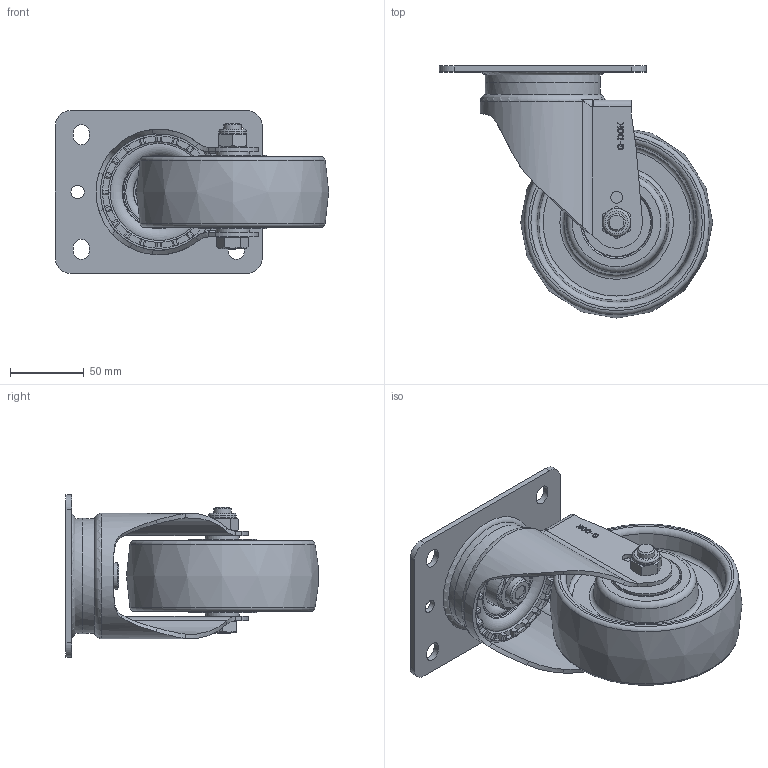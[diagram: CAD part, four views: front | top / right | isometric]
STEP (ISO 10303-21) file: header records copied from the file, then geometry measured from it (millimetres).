
FILE_DESCRIPTION(/* description */ (''),/* implementation_level */ '2;1');
FILE_NAME(/* name */ '\\192.168.10.38\지덕공유\1.기술연구소\2.연구개발 진행중\124.SPH-Series_중하중_2025.02.11\1.도면\2. 3D\홈페이지용\SPH-130-ASF-NYD-PEU.stp',/* time_stamp */ '2026-05-19T07:41:13+09:00',/* author */ ('admin'),/* organization */ ('지덕산업'),/* preprocessor_version */ 'ST-DEVELOPER v18.1',/* originating_system */ 'Autodesk Inventor 2021',/* authorisation */ '');
FILE_SCHEMA (('AUTOMOTIVE_DESIGN { 1 0 10303 214 3 1 1 }'));
Length unit declared in the file: millimetre
Products named in the file (1): SPH-130-ASF-NYD-PEU
Bounding box: 185 x 170.74 x 110 mm (x, y, z)
Volume: 667301.4 mm3; surface area: 132991.9 mm2
Topology: 1 solids, 1 shells, 1209 faces, 3261 edges, 2144 vertices
Faces by surface type: plane 552, bspline 450, cylinder 142, cone 35, torus 30
Full cylindrical faces by diameter (mm): 8 x2, 9 x2, 10 x1, 12 x1, 18 x2, 18.5 x1, 31 x1, 31.177 x1, 46.001 x2
Entity records: 40722 total; most frequent: CARTESIAN_POINT 13314, ORIENTED_EDGE 6518, DIRECTION 4151, EDGE_CURVE 3259, VERTEX_POINT 2144, LINE 1875, VECTOR 1875, EDGE_LOOP 1319
